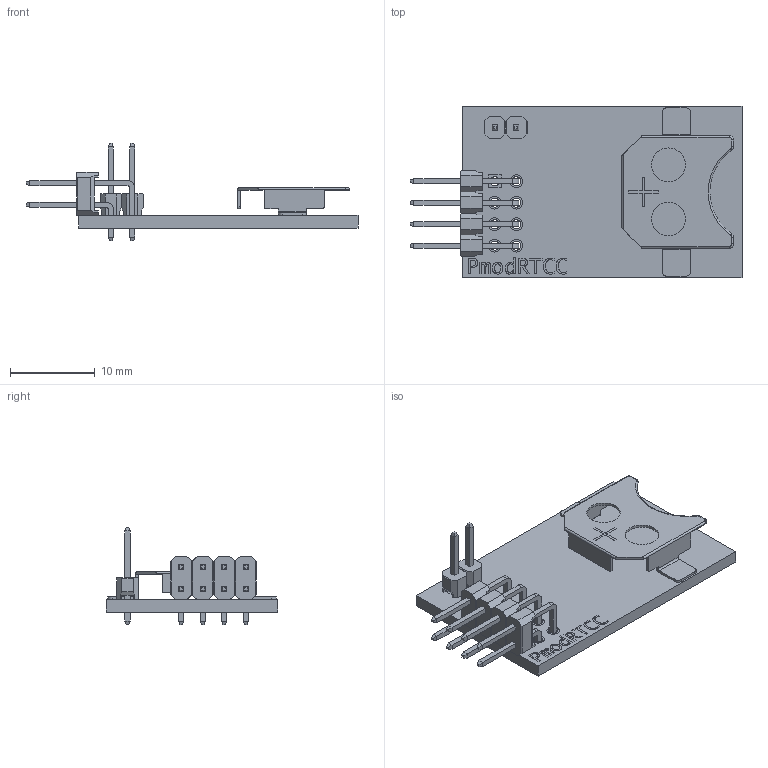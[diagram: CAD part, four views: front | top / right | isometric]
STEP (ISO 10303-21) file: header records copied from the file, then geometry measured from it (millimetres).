
FILE_DESCRIPTION(/* description */ ('Alibre Inc.'),/* implementation_level */ '2;1');
FILE_NAME(/* name */ 'export1',/* time_stamp */ '2018-01-08T17:17:16-08:00',/* author */ (''),/* organization */ (''),/* preprocessor_version */ 'ST-DEVELOPER v14',/* originating_system */ 'Alibre',/* authorisation */ '');
FILE_SCHEMA (('AUTOMOTIVE_DESIGN'));
Length unit declared in the file: centimetre
Bounding box: 39.23 x 20.32 x 11.54 mm (x, y, z)
Volume: 1229.4 mm3; surface area: 2528.7 mm2
Topology: 4 solids, 4 shells, 659 faces, 1666 edges, 1068 vertices
Faces by surface type: plane 473, bspline 110, cylinder 71, torus 5
Full cylindrical faces by diameter (mm): 1.067 x10, 1.5 x16, 4 x2
Entity records: 19183 total; most frequent: CARTESIAN_POINT 4225, ORIENTED_EDGE 3276, DIRECTION 2065, EDGE_CURVE 1638, VECTOR 1213, LINE 1213, VERTEX_POINT 1068, EDGE_LOOP 764
